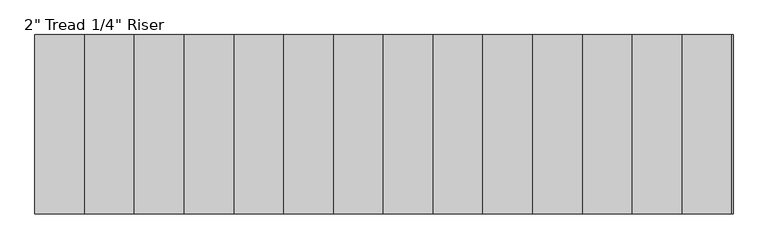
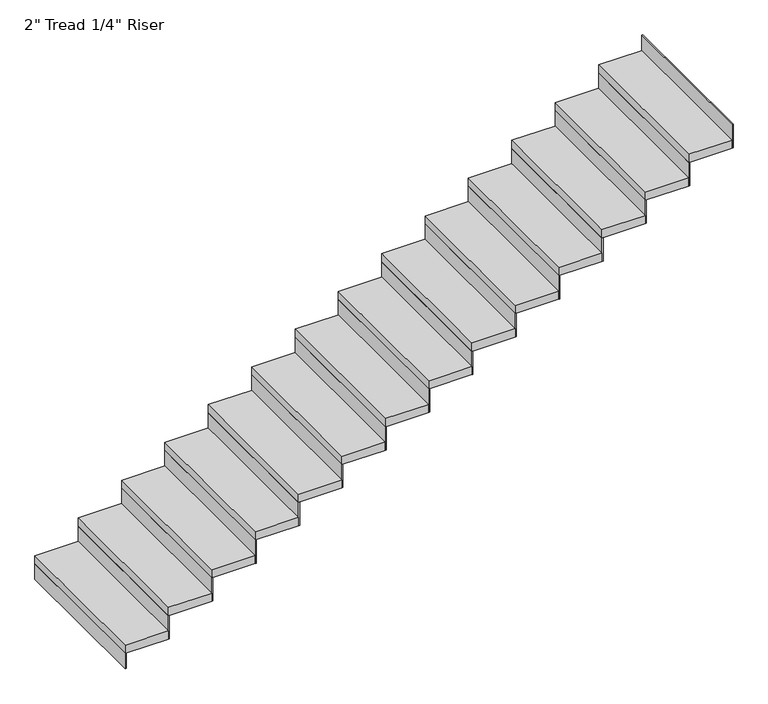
"""IFC4 building model written with IfcOpenShell, lengths in millimetres: stair flight geometry."""

from ifc_helpers import new_model, si_unit, frame, origin, origin_with_axes, place, context, project, spatial, polyline, outline, extrude, source, transform, mapped, element, save


def stair_flight_ac206a03(model_context):
    return source(origin(), model_context, "Body", "SweptSolid", [
        extrude(outline(polyline([(133302.5023809, -18868.6990002), (133296.1523809, -18868.6990002), (133296.1523809, -17954.2990002), (133302.5023809, -17954.2990002), (133302.5023809, -18868.6990002)])), origin_with_axes(), (0.0, 0.0, 1.0), 94.3428571),
        extrude(outline(polyline([(133550.1523809, -17954.2990002), (133550.1523809, -18868.6990002), (133296.1523809, -18868.6990002), (133296.1523809, -17954.2990002), (133550.1523809, -17954.2990002)])), frame((0.0, 0.0, 94.3428571), z_axis=(0.0, 0.0, 1.0), x_axis=(1.0, 0.0, 0.0)), (0.0, 0.0, 1.0), 50.8),
        extrude(outline(polyline([(133556.5023809, -18868.6990002), (133550.1523809, -18868.6990002), (133550.1523809, -17954.2990002), (133556.5023809, -17954.2990002), (133556.5023809, -18868.6990002)])), frame((0.0, 0.0, 94.3428571), z_axis=(0.0, 0.0, 1.0), x_axis=(1.0, 0.0, 0.0)), (0.0, 0.0, 1.0), 145.1428571),
        extrude(outline(polyline([(133804.1523809, -17954.2990002), (133804.1523809, -18868.6990002), (133550.1523809, -18868.6990002), (133550.1523809, -17954.2990002), (133804.1523809, -17954.2990002)])), frame((0.0, 0.0, 239.4857143), z_axis=(0.0, 0.0, 1.0), x_axis=(1.0, 0.0, 0.0)), (0.0, 0.0, 1.0), 50.8),
        extrude(outline(polyline([(133810.5023809, -18868.6990002), (133804.1523809, -18868.6990002), (133804.1523809, -17954.2990002), (133810.5023809, -17954.2990002), (133810.5023809, -18868.6990002)])), frame((0.0, 0.0, 239.4857143), z_axis=(0.0, 0.0, 1.0), x_axis=(1.0, 0.0, 0.0)), (0.0, 0.0, 1.0), 145.1428571),
        extrude(outline(polyline([(134058.1523809, -17954.2990002), (134058.1523809, -18868.6990002), (133804.1523809, -18868.6990002), (133804.1523809, -17954.2990002), (134058.1523809, -17954.2990002)])), frame((0.0, 0.0, 384.6285714), z_axis=(0.0, 0.0, 1.0), x_axis=(1.0, 0.0, 0.0)), (0.0, 0.0, 1.0), 50.8),
        extrude(outline(polyline([(134064.5023809, -18868.6990002), (134058.1523809, -18868.6990002), (134058.1523809, -17954.2990002), (134064.5023809, -17954.2990002), (134064.5023809, -18868.6990002)])), frame((0.0, 0.0, 384.6285714), z_axis=(0.0, 0.0, 1.0), x_axis=(1.0, 0.0, 0.0)), (0.0, 0.0, 1.0), 145.1428571),
        extrude(outline(polyline([(134312.1523809, -17954.2990002), (134312.1523809, -18868.6990002), (134058.1523809, -18868.6990002), (134058.1523809, -17954.2990002), (134312.1523809, -17954.2990002)])), frame((0.0, 0.0, 529.7714286), z_axis=(0.0, 0.0, 1.0), x_axis=(1.0, 0.0, 0.0)), (0.0, 0.0, 1.0), 50.8),
        extrude(outline(polyline([(134318.5023809, -18868.6990002), (134312.1523809, -18868.6990002), (134312.1523809, -17954.2990002), (134318.5023809, -17954.2990002), (134318.5023809, -18868.6990002)])), frame((0.0, 0.0, 529.7714286), z_axis=(0.0, 0.0, 1.0), x_axis=(1.0, 0.0, 0.0)), (0.0, 0.0, 1.0), 145.1428571),
        extrude(outline(polyline([(134566.1523809, -17954.2990002), (134566.1523809, -18868.6990002), (134312.1523809, -18868.6990002), (134312.1523809, -17954.2990002), (134566.1523809, -17954.2990002)])), frame((0.0, 0.0, 674.9142857), z_axis=(0.0, 0.0, 1.0), x_axis=(1.0, 0.0, 0.0)), (0.0, 0.0, 1.0), 50.8),
        extrude(outline(polyline([(134572.5023809, -18868.6990002), (134566.1523809, -18868.6990002), (134566.1523809, -17954.2990002), (134572.5023809, -17954.2990002), (134572.5023809, -18868.6990002)])), frame((0.0, 0.0, 674.9142857), z_axis=(0.0, 0.0, 1.0), x_axis=(1.0, 0.0, 0.0)), (0.0, 0.0, 1.0), 145.1428571),
        extrude(outline(polyline([(134820.1523809, -17954.2990002), (134820.1523809, -18868.6990002), (134566.1523809, -18868.6990002), (134566.1523809, -17954.2990002), (134820.1523809, -17954.2990002)])), frame((0.0, 0.0, 820.0571429), z_axis=(0.0, 0.0, 1.0), x_axis=(1.0, 0.0, 0.0)), (0.0, 0.0, 1.0), 50.8),
        extrude(outline(polyline([(134826.5023809, -18868.6990002), (134820.1523809, -18868.6990002), (134820.1523809, -17954.2990002), (134826.5023809, -17954.2990002), (134826.5023809, -18868.6990002)])), frame((0.0, 0.0, 820.0571429), z_axis=(0.0, 0.0, 1.0), x_axis=(1.0, 0.0, 0.0)), (0.0, 0.0, 1.0), 145.1428571),
        extrude(outline(polyline([(135074.1523809, -17954.2990002), (135074.1523809, -18868.6990002), (134820.1523809, -18868.6990002), (134820.1523809, -17954.2990002), (135074.1523809, -17954.2990002)])), frame((0.0, 0.0, 965.2), z_axis=(0.0, 0.0, 1.0), x_axis=(1.0, 0.0, 0.0)), (0.0, 0.0, 1.0), 50.8),
        extrude(outline(polyline([(135080.5023809, -18868.6990002), (135074.1523809, -18868.6990002), (135074.1523809, -17954.2990002), (135080.5023809, -17954.2990002), (135080.5023809, -18868.6990002)])), frame((0.0, 0.0, 965.2), z_axis=(0.0, 0.0, 1.0), x_axis=(1.0, 0.0, 0.0)), (0.0, 0.0, 1.0), 145.1428571),
        extrude(outline(polyline([(135328.1523809, -17954.2990002), (135328.1523809, -18868.6990002), (135074.1523809, -18868.6990002), (135074.1523809, -17954.2990002), (135328.1523809, -17954.2990002)])), frame((0.0, 0.0, 1110.3428571), z_axis=(0.0, 0.0, 1.0), x_axis=(1.0, 0.0, 0.0)), (0.0, 0.0, 1.0), 50.8),
        extrude(outline(polyline([(135334.5023809, -18868.6990002), (135328.1523809, -18868.6990002), (135328.1523809, -17954.2990002), (135334.5023809, -17954.2990002), (135334.5023809, -18868.6990002)])), frame((0.0, 0.0, 1110.3428571), z_axis=(0.0, 0.0, 1.0), x_axis=(1.0, 0.0, 0.0)), (0.0, 0.0, 1.0), 145.1428571),
        extrude(outline(polyline([(135582.1523809, -17954.2990002), (135582.1523809, -18868.6990002), (135328.1523809, -18868.6990002), (135328.1523809, -17954.2990002), (135582.1523809, -17954.2990002)])), frame((0.0, 0.0, 1255.4857143), z_axis=(0.0, 0.0, 1.0), x_axis=(1.0, 0.0, 0.0)), (0.0, 0.0, 1.0), 50.8),
        extrude(outline(polyline([(135588.5023809, -18868.6990002), (135582.1523809, -18868.6990002), (135582.1523809, -17954.2990002), (135588.5023809, -17954.2990002), (135588.5023809, -18868.6990002)])), frame((0.0, 0.0, 1255.4857143), z_axis=(0.0, 0.0, 1.0), x_axis=(1.0, 0.0, 0.0)), (0.0, 0.0, 1.0), 145.1428571),
        extrude(outline(polyline([(135836.1523809, -17954.2990002), (135836.1523809, -18868.6990002), (135582.1523809, -18868.6990002), (135582.1523809, -17954.2990002), (135836.1523809, -17954.2990002)])), frame((0.0, 0.0, 1400.6285714), z_axis=(0.0, 0.0, 1.0), x_axis=(1.0, 0.0, 0.0)), (0.0, 0.0, 1.0), 50.8),
        extrude(outline(polyline([(135842.5023809, -18868.6990002), (135836.1523809, -18868.6990002), (135836.1523809, -17954.2990002), (135842.5023809, -17954.2990002), (135842.5023809, -18868.6990002)])), frame((0.0, 0.0, 1400.6285714), z_axis=(0.0, 0.0, 1.0), x_axis=(1.0, 0.0, 0.0)), (0.0, 0.0, 1.0), 145.1428571),
        extrude(outline(polyline([(136090.1523809, -17954.2990002), (136090.1523809, -18868.6990002), (135836.1523809, -18868.6990002), (135836.1523809, -17954.2990002), (136090.1523809, -17954.2990002)])), frame((0.0, 0.0, 1545.7714286), z_axis=(0.0, 0.0, 1.0), x_axis=(1.0, 0.0, 0.0)), (0.0, 0.0, 1.0), 50.8),
        extrude(outline(polyline([(136096.5023809, -18868.6990002), (136090.1523809, -18868.6990002), (136090.1523809, -17954.2990002), (136096.5023809, -17954.2990002), (136096.5023809, -18868.6990002)])), frame((0.0, 0.0, 1545.7714286), z_axis=(0.0, 0.0, 1.0), x_axis=(1.0, 0.0, 0.0)), (0.0, 0.0, 1.0), 145.1428571),
        extrude(outline(polyline([(136344.1523809, -17954.2990002), (136344.1523809, -18868.6990002), (136090.1523809, -18868.6990002), (136090.1523809, -17954.2990002), (136344.1523809, -17954.2990002)])), frame((0.0, 0.0, 1690.9142857), z_axis=(0.0, 0.0, 1.0), x_axis=(1.0, 0.0, 0.0)), (0.0, 0.0, 1.0), 50.8),
        extrude(outline(polyline([(136350.5023809, -18868.6990002), (136344.1523809, -18868.6990002), (136344.1523809, -17954.2990002), (136350.5023809, -17954.2990002), (136350.5023809, -18868.6990002)])), frame((0.0, 0.0, 1690.9142857), z_axis=(0.0, 0.0, 1.0), x_axis=(1.0, 0.0, 0.0)), (0.0, 0.0, 1.0), 145.1428571),
        extrude(outline(polyline([(136598.1523809, -17954.2990002), (136598.1523809, -18868.6990002), (136344.1523809, -18868.6990002), (136344.1523809, -17954.2990002), (136598.1523809, -17954.2990002)])), frame((0.0, 0.0, 1836.0571429), z_axis=(0.0, 0.0, 1.0), x_axis=(1.0, 0.0, 0.0)), (0.0, 0.0, 1.0), 50.8),
        extrude(outline(polyline([(136604.5023809, -18868.6990002), (136598.1523809, -18868.6990002), (136598.1523809, -17954.2990002), (136604.5023809, -17954.2990002), (136604.5023809, -18868.6990002)])), frame((0.0, 0.0, 1836.0571429), z_axis=(0.0, 0.0, 1.0), x_axis=(1.0, 0.0, 0.0)), (0.0, 0.0, 1.0), 145.1428571),
        extrude(outline(polyline([(136858.5023809, -18868.6990002), (136852.1523809, -18868.6990002), (136852.1523809, -17954.2990002), (136858.5023809, -17954.2990002), (136858.5023809, -18868.6990002)])), frame((0.0, 0.0, 1981.2), z_axis=(0.0, 0.0, 1.0), x_axis=(1.0, 0.0, 0.0)), (0.0, 0.0, 1.0), 145.1428571),
        extrude(outline(polyline([(136852.1523809, -17954.2990002), (136852.1523809, -18868.6990002), (136598.1523809, -18868.6990002), (136598.1523809, -17954.2990002), (136852.1523809, -17954.2990002)])), frame((0.0, 0.0, 1981.2), z_axis=(0.0, 0.0, 1.0), x_axis=(1.0, 0.0, 0.0)), (0.0, 0.0, 1.0), 50.8),
    ])


if __name__ == "__main__":
    model = new_model("IFC4")
    model_context = context("Model", 3, world=origin())
    ifc_project = project(units=[si_unit("LENGTHUNIT", "METRE", prefix="MILLI")], contexts=[model_context])
    site = spatial("IfcSite", under=ifc_project)
    building = spatial("IfcBuilding", under=site)
    placement = place(None, origin())
    stair_flight_shape = stair_flight_ac206a03(model_context)
    element("IfcStairFlight", 1, ObjectType="2\" Tread 1/4\" Riser", at=placement, inside=building, context=model_context, shape_type="MappedRepresentation", body=[
        mapped(stair_flight_shape, transform((0.0, 0.0, 0.0), x_axis=(1.0, 0.0, 0.0), y_axis=(0.0, 1.0, 0.0), z_axis=(0.0, 0.0, 1.0))),
    ])
    save(model, "model.ifc")
